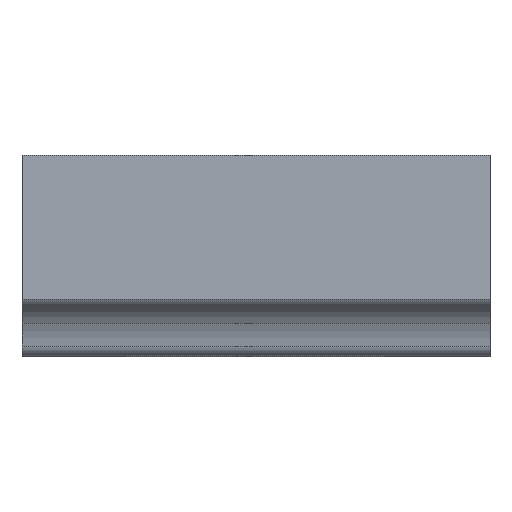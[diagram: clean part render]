
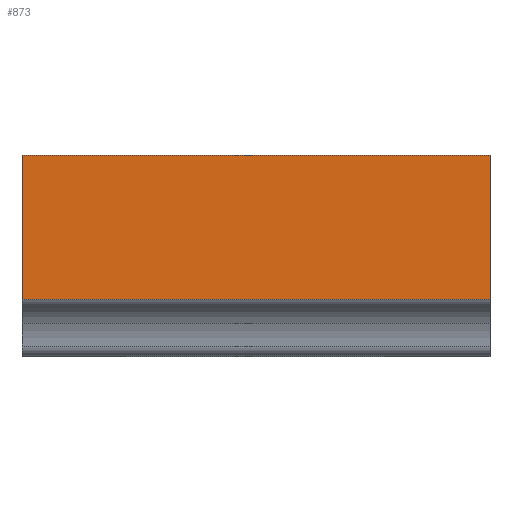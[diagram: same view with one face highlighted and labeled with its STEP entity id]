
A CAD part, top view. The second image highlights one B-rep face of the part: STEP entity #873.
In plain terms, the highlighted planar face has unit normal (0, 0, 1) as drawn and (0, 0, -1) by its records, which use the part's own axes.
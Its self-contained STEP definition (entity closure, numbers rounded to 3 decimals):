
#86=PLANE('',#1003);
#128=FACE_OUTER_BOUND('',#170,.T.);
#170=EDGE_LOOP('',(#763,#764,#765,#766));
#209=LINE('',#1676,#264);
#223=LINE('',#1733,#278);
#226=LINE('',#1739,#281);
#227=LINE('',#1740,#282);
#264=VECTOR('',#1186,10.);
#278=VECTOR('',#1250,10.);
#281=VECTOR('',#1255,10.);
#282=VECTOR('',#1256,10.);
#412=VERTEX_POINT('',#1672);
#413=VERTEX_POINT('',#1674);
#431=VERTEX_POINT('',#1732);
#433=VERTEX_POINT('',#1738);
#522=EDGE_CURVE('',#412,#413,#209,.T.);
#550=EDGE_CURVE('',#412,#431,#223,.T.);
#553=EDGE_CURVE('',#413,#433,#226,.T.);
#554=EDGE_CURVE('',#433,#431,#227,.T.);
#763=ORIENTED_EDGE('',*,*,#522,.T.);
#764=ORIENTED_EDGE('',*,*,#553,.T.);
#765=ORIENTED_EDGE('',*,*,#554,.T.);
#766=ORIENTED_EDGE('',*,*,#550,.F.);
#873=ADVANCED_FACE('',(#128),#86,.T.);
#1003=AXIS2_PLACEMENT_3D('',#1737,#1253,#1254);
#1186=DIRECTION('',(-1.,0.,0.));
#1250=DIRECTION('',(0.,1.,0.));
#1253=DIRECTION('center_axis',(0.,0.,
-1.));
#1254=DIRECTION('ref_axis',(0.,1.,0.));
#1255=DIRECTION('',(0.,1.,0.));
#1256=DIRECTION('',(1.,0.,0.));
#1672=CARTESIAN_POINT('',(6.2,0.963,0.));
#1674=CARTESIAN_POINT('',(0.,0.963,0.));
#1676=CARTESIAN_POINT('',(0.,0.963,0.));
#1732=CARTESIAN_POINT('',(6.2,2.876,0.));
#1733=CARTESIAN_POINT('',(6.2,0.,0.));
#1737=CARTESIAN_POINT('Origin',(0.,0.,
0.));
#1738=CARTESIAN_POINT('',(0.,2.876,0.));
#1739=CARTESIAN_POINT('',(0.,0.,0.));
#1740=CARTESIAN_POINT('',(0.,2.876,0.));
